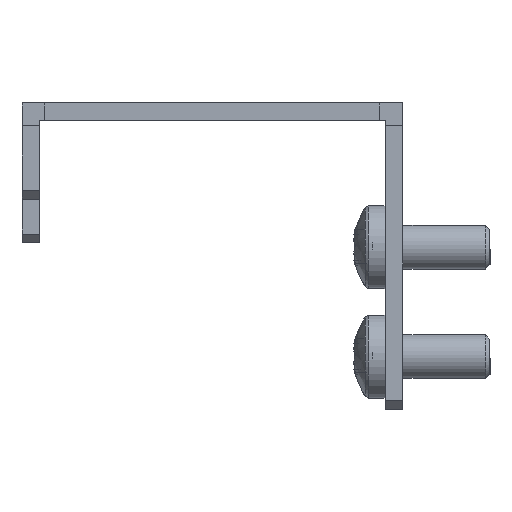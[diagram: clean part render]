
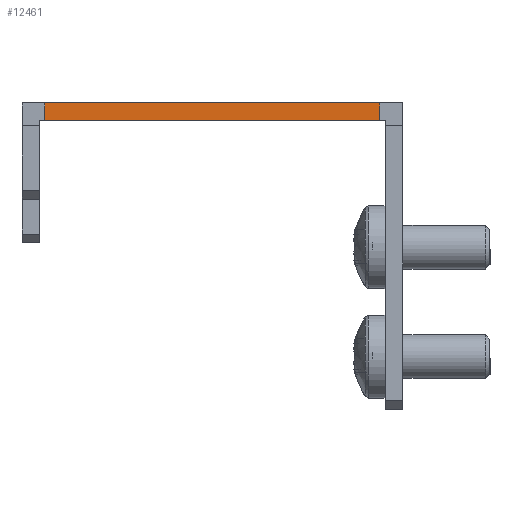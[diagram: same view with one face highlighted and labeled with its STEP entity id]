
A CAD part, left-side view. The second image highlights one B-rep face of the part: STEP entity #12461.
In plain terms, the highlighted planar face has unit normal (-1, 0, 0) as drawn and (1, 0, 0) by its records, which use the part's own axes.
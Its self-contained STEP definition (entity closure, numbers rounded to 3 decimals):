
#8766 = VERTEX_POINT('',#8767);
#8767 = CARTESIAN_POINT('',(381.,19.15,-2.));
#8773 = EDGE_CURVE('',#8774,#8766,#8776,.T.);
#8774 = VERTEX_POINT('',#8775);
#8775 = CARTESIAN_POINT('',(381.,-19.15,-2.));
#8776 = LINE('',#8777,#8778);
#8777 = CARTESIAN_POINT('',(381.,-21.75,-2.));
#8778 = VECTOR('',#8779,1.);
#8779 = DIRECTION('',(0.,1.,0.));
#12121 = VERTEX_POINT('',#12122);
#12122 = CARTESIAN_POINT('',(381.,-19.15,0.));
#12128 = EDGE_CURVE('',#12121,#12129,#12131,.T.);
#12129 = VERTEX_POINT('',#12130);
#12130 = CARTESIAN_POINT('',(381.,19.15,0.));
#12131 = LINE('',#12132,#12133);
#12132 = CARTESIAN_POINT('',(381.,-21.75,0.));
#12133 = VECTOR('',#12134,1.);
#12134 = DIRECTION('',(0.,1.,0.));
#12461 = ADVANCED_FACE('',(#12462),#12478,.T.);
#12462 = FACE_BOUND('',#12463,.T.);
#12463 = EDGE_LOOP('',(#12464,#12470,#12471,#12477));
#12464 = ORIENTED_EDGE('',*,*,#12465,.F.);
#12465 = EDGE_CURVE('',#8774,#12121,#12466,.T.);
#12466 = LINE('',#12467,#12468);
#12467 = CARTESIAN_POINT('',(381.,-19.15,-2.));
#12468 = VECTOR('',#12469,1.);
#12469 = DIRECTION('',(0.,0.,1.));
#12470 = ORIENTED_EDGE('',*,*,#8773,.T.);
#12471 = ORIENTED_EDGE('',*,*,#12472,.T.);
#12472 = EDGE_CURVE('',#8766,#12129,#12473,.T.);
#12473 = LINE('',#12474,#12475);
#12474 = CARTESIAN_POINT('',(381.,19.15,-2.));
#12475 = VECTOR('',#12476,1.);
#12476 = DIRECTION('',(0.,0.,1.));
#12477 = ORIENTED_EDGE('',*,*,#12128,.F.);
#12478 = PLANE('',#12479);
#12479 = AXIS2_PLACEMENT_3D('',#12480,#12481,#12482);
#12480 = CARTESIAN_POINT('',(381.,-21.75,-2.));
#12481 = DIRECTION('',(1.,0.,0.));
#12482 = DIRECTION('',(0.,0.,-1.));
